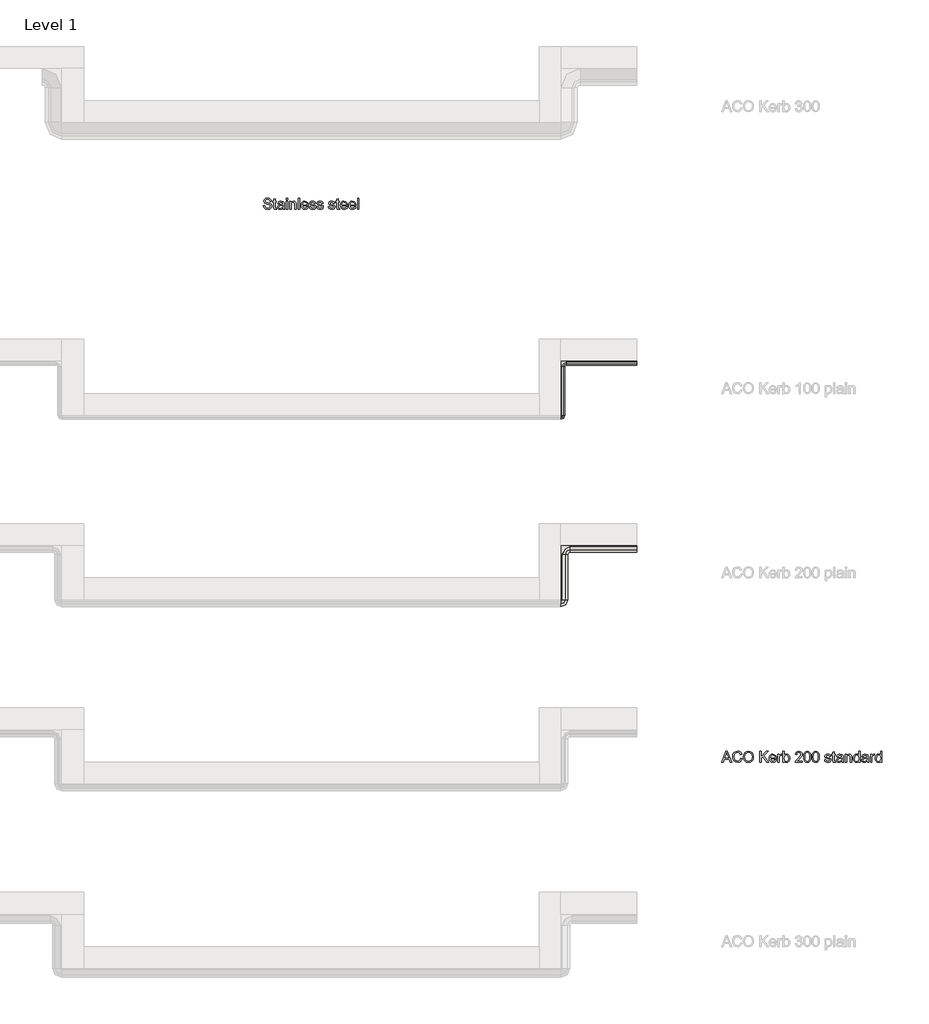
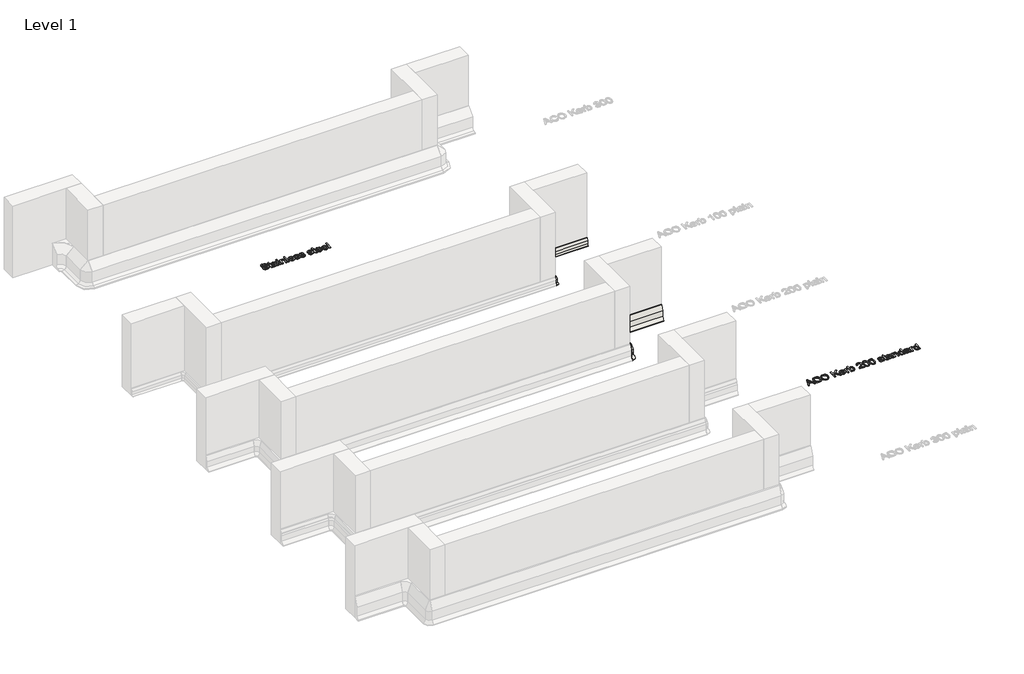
# One storey, part 3 of 4: 6 walls, 2 proxies.
"""IFC4 building model written with IfcOpenShell, lengths in millimetres."""

from ifc_helpers import new_model, si_unit, origin, origin_with_axes, place, context, project, spatial, polyline, outline, extrude, transform, mapped, element, save
from components import wall_ed1be866, wall_3654c08e, wall_77bbd41e, wall_ce8773a7, wall_ae31afe3, wall_f734193e

model = new_model("IFC4")

# Units and contexts
model_context = context("Model", 3, world=origin())
ifc_project = project(units=[si_unit("LENGTHUNIT", "METRE", prefix="MILLI")], contexts=[model_context])

# Site, building, storey
site = spatial("IfcSite", under=ifc_project)
building = spatial("IfcBuilding", under=site)
storey = spatial("IfcBuildingStorey", under=building, Name="Level 1", Elevation=0.0)

# Proxies
placement = place(None, origin())
element("IfcBuildingElementProxy", 1, Name="100mm ACO", ObjectType="100mm ACO", at=placement, inside=storey, context=model_context, shape_type="SweptSolid", body=[
    extrude(outline(polyline([(619.4444444, -4129.6296296), (617.4334491, -4120.7356771), (612.962963, -4114.3663194), (596.6435185, -4109.2592593), (581.0185185, -4113.2378472), (576.5046296, -4118.1242766), (575.0, -4124.8263889), (579.4704861, -4134.8813657), (597.65625, -4141.1747685), (617.4913194, -4146.6579861), (630.6423611, -4155.5844907), (634.7439236, -4162.6663773), (636.1111111, -4171.8171296), (633.6046007, -4183.6552373), (626.0850694, -4193.3015046), (614.5363137, -4199.714265), (599.9421296, -4201.8518519), (581.958912, -4199.4791667), (569.1550926, -4192.3611111), (561.3425926, -4181.4670139), (558.3333333, -4167.7662037), (571.2962963, -4166.6666667), (573.9257812, -4177.5426794), (580.1359954, -4184.9971065), (588.9720775, -4189.3048322), (599.4791667, -4190.7407407), (616.6087963, -4186.009838), (621.5133102, -4180.4361979), (623.1481481, -4173.1770833), (621.4590567, -4165.8492477), (616.3917824, -4160.8217593), (593.1134259, -4153.3709491), (578.9026331, -4149.0306713), (569.3142361, -4143.1568287), (563.8563368, -4135.5287905), (562.037037, -4125.9259259), (564.3192998, -4114.9305556), (571.166088, -4106.0185185), (581.9480613, -4100.1157407), (596.0358796, -4098.1481481), (610.5975116, -4100.1302083), (621.9907407, -4106.0763889), (629.4994213, -4115.6684028), (632.4074074, -4128.587963), (619.4444444, -4129.6296296)])), origin_with_axes(), (0.0, 0.0, 1.0), 10.0),
    extrude(outline(polyline([(680.5555556, -4201.0127315), (671.4699074, -4201.8518519), (659.8813657, -4198.9728009), (655.4398148, -4191.6666667), (654.6296296, -4179.3402778), (654.6296296, -4137.037037), (645.3703704, -4137.037037), (645.3703704, -4127.7777778), (654.6296296, -4127.7777778), (654.6296296, -4109.4328704), (667.5925926, -4101.8518519), (667.5925926, -4127.7777778), (678.7037037, -4127.7777778), (678.7037037, -4137.037037), (667.5925926, -4137.037037), (667.5925926, -4181.9444444), (668.6342593, -4190.162037), (673.9293981, -4192.5925926), (678.9641204, -4192.5925926), (680.5555556, -4201.0127315)])), origin_with_axes(), (0.0, 0.0, 1.0), 10.0),
    extrude(outline(polyline([(754.6296296, -4200.0), (741.6666667, -4200.0), (737.962963, -4191.2615741), (725.4701968, -4199.2042824), (712.0081019, -4201.8518519), (702.0218461, -4200.4050926), (694.4010417, -4196.0648148), (689.5724826, -4189.3518519), (687.962963, -4180.787037), (689.5399306, -4172.479022), (694.2708333, -4165.7841435), (702.9007523, -4160.8904803), (716.1747685, -4157.9861111), (727.5173611, -4156.25), (737.962963, -4153.7037037), (737.6302083, -4145.6741898), (735.6915509, -4140.7986111), (730.5266204, -4136.7332176), (720.9490741, -4135.1851852), (708.8686343, -4138.3246528), (702.7777778, -4150.0), (689.8148148, -4148.4085648), (693.3702257, -4138.599537), (700.0434028, -4131.568287), (709.8271123, -4127.3365162), (722.7141204, -4125.9259259), (741.9704861, -4129.7887731), (749.5225694, -4139.1059028), (750.9259259, -4153.1539352), (750.9259259, -4169.6759259), (751.4756944, -4189.9305556), (754.6296296, -4200.0)]), holes=[polyline([(737.962963, -4167.5925926), (737.962963, -4162.962963), (714.6846065, -4168.287037), (704.3655961, -4172.3451968), (700.9259259, -4180.5844907), (704.6296296, -4189.2071759), (715.306713, -4192.5925926), (731.1197917, -4186.9212963), (736.2521701, -4179.2534722), (737.962963, -4167.5925926)])]), origin_with_axes(), (0.0, 0.0, 1.0), 10.0),
    extrude(outline(polyline([(782.4074074, -4112.962963), (769.4444444, -4112.962963), (769.4444444, -4100.0), (782.4074074, -4100.0), (782.4074074, -4112.962963)])), origin_with_axes(), (0.0, 0.0, 1.0), 10.0),
    extrude(outline(polyline([(782.4074074, -4200.0), (769.4444444, -4200.0), (769.4444444, -4127.7777778), (782.4074074, -4127.7777778), (782.4074074, -4200.0)])), origin_with_axes(), (0.0, 0.0, 1.0), 10.0),
    extrude(outline(polyline([(860.1851852, -4200.0), (847.2222222, -4200.0), (847.2222222, -4155.0347222), (843.359375, -4139.4386574), (832.6099537, -4135.1851852), (822.583912, -4137.9050926), (815.8709491, -4145.5729167), (813.8888889, -4159.5775463), (813.8888889, -4200.0), (800.9259259, -4200.0), (800.9259259, -4127.7777778), (812.037037, -4127.7777778), (812.037037, -4137.818287), (821.9328704, -4128.8917824), (835.1851852, -4125.9259259), (846.556713, -4127.9803241), (855.3530093, -4134.1290509), (859.3605324, -4142.8674769), (860.1851852, -4155.4108796), (860.1851852, -4200.0)])), origin_with_axes(), (0.0, 0.0, 1.0), 10.0),
    extrude(outline(polyline([(891.6666667, -4200.0), (878.7037037, -4200.0), (878.7037037, -4100.0), (891.6666667, -4100.0), (891.6666667, -4200.0)])), origin_with_axes(), (0.0, 0.0, 1.0), 10.0),
    extrude(outline(polyline([(973.1481481, -4166.6666667), (919.4444444, -4166.6666667), (921.5169271, -4177.7922454), (926.2297454, -4185.9375), (933.0114294, -4190.9288194), (941.2905093, -4192.5925926), (952.9658565, -4188.9033565), (960.1851852, -4177.7777778), (973.1481481, -4179.2824074), (968.7717014, -4188.9033565), (961.8344907, -4196.0069444), (952.5896991, -4200.390625), (941.2905093, -4201.8518519), (926.703559, -4199.3453414), (915.697338, -4191.8258102), (908.7854456, -4179.9660012), (906.4814815, -4164.4386574), (908.7022569, -4148.900463), (915.3645833, -4136.6030093), (926.0633681, -4128.5951968), (940.3935185, -4125.9259259), (955.6134259, -4129.3836806), (968.041088, -4141.1603009), (971.8713831, -4151.6963252), (973.1481481, -4166.6666667)]), holes=[polyline([(960.1851852, -4157.4074074), (958.1018519, -4147.2511574), (953.3564815, -4140.3935185), (940.0752315, -4135.1851852), (932.2193287, -4136.7332176), (925.8969907, -4141.3773148), (919.4444444, -4157.4074074), (960.1851852, -4157.4074074)])]), origin_with_axes(), (0.0, 0.0, 1.0), 10.0),
    extrude(outline(polyline([(1028.7037037, -4148.1481481), (1023.9149306, -4138.4259259), (1012.8472222, -4135.1851852), (1001.5335648, -4137.962963), (997.2222222, -4146.0358796), (1000.072338, -4153.1828704), (1013.5127315, -4157.0601852), (1031.2355324, -4161.2268519), (1040.2777778, -4167.5491898), (1043.5185185, -4178.8773148), (1041.5075231, -4187.8074363), (1035.474537, -4195.2112269), (1026.0778356, -4200.1916956), (1013.9756944, -4201.8518519), (1001.5010127, -4200.4557292), (992.0862269, -4196.2673611), (985.724103, -4189.2939815), (982.4074074, -4179.5428241), (995.3703704, -4177.7777778), (1000.9693287, -4188.9033565), (1013.9756944, -4192.5925926), (1026.2731481, -4188.7586806), (1030.5555556, -4179.4270833), (1028.6313657, -4173.4519676), (1023.828125, -4170.0810185), (1010.2430556, -4167.1875), (989.3084491, -4159.375), (984.2592593, -4146.7881944), (986.1291956, -4138.5018808), (991.7390046, -4131.8142361), (1000.5099826, -4127.3980035), (1011.8634259, -4125.9259259), (1023.7955729, -4127.2135417), (1032.740162, -4131.0763889), (1038.6971933, -4137.5072338), (1041.6666667, -4146.4988426), (1028.7037037, -4148.1481481)])), origin_with_axes(), (0.0, 0.0, 1.0), 10.0),
    extrude(outline(polyline([(1097.2222222, -4148.1481481), (1092.4334491, -4138.4259259), (1081.3657407, -4135.1851852), (1070.0520833, -4137.962963), (1065.7407407, -4146.0358796), (1068.5908565, -4153.1828704), (1082.03125, -4157.0601852), (1099.7540509, -4161.2268519), (1108.7962963, -4167.5491898), (1112.037037, -4178.8773148), (1110.0260417, -4187.8074363), (1103.9930556, -4195.2112269), (1094.5963542, -4200.1916956), (1082.494213, -4201.8518519), (1070.0195312, -4200.4557292), (1060.6047454, -4196.2673611), (1054.2426215, -4189.2939815), (1050.9259259, -4179.5428241), (1063.8888889, -4177.7777778), (1069.4878472, -4188.9033565), (1082.494213, -4192.5925926), (1094.7916667, -4188.7586806), (1099.0740741, -4179.4270833), (1097.1498843, -4173.4519676), (1092.3466435, -4170.0810185), (1078.7615741, -4167.1875), (1057.8269676, -4159.375), (1052.7777778, -4146.7881944), (1054.6477141, -4138.5018808), (1060.2575231, -4131.8142361), (1069.0285012, -4127.3980035), (1080.3819444, -4125.9259259), (1092.3140914, -4127.2135417), (1101.2586806, -4131.0763889), (1107.2157118, -4137.5072338), (1110.1851852, -4146.4988426), (1097.2222222, -4148.1481481)])), origin_with_axes(), (0.0, 0.0, 1.0), 10.0),
    extrude(outline(polyline([(1204.6296296, -4148.1481481), (1199.8408565, -4138.4259259), (1188.7731481, -4135.1851852), (1177.4594907, -4137.962963), (1173.1481481, -4146.0358796), (1175.9982639, -4153.1828704), (1189.4386574, -4157.0601852), (1207.1614583, -4161.2268519), (1216.2037037, -4167.5491898), (1219.4444444, -4178.8773148), (1217.4334491, -4187.8074363), (1211.400463, -4195.2112269), (1202.0037616, -4200.1916956), (1189.9016204, -4201.8518519), (1177.4269387, -4200.4557292), (1168.0121528, -4196.2673611), (1161.6500289, -4189.2939815), (1158.3333333, -4179.5428241), (1171.2962963, -4177.7777778), (1176.8952546, -4188.9033565), (1189.9016204, -4192.5925926), (1202.1990741, -4188.7586806), (1206.4814815, -4179.4270833), (1204.5572917, -4173.4519676), (1199.7540509, -4170.0810185), (1186.1689815, -4167.1875), (1165.234375, -4159.375), (1160.1851852, -4146.7881944), (1162.0551215, -4138.5018808), (1167.6649306, -4131.8142361), (1176.4359086, -4127.3980035), (1187.7893519, -4125.9259259), (1199.7214988, -4127.2135417), (1208.666088, -4131.0763889), (1214.6231192, -4137.5072338), (1217.5925926, -4146.4988426), (1204.6296296, -4148.1481481)])), origin_with_axes(), (0.0, 0.0, 1.0), 10.0),
    extrude(outline(polyline([(1260.1851852, -4201.0127315), (1251.099537, -4201.8518519), (1239.5109954, -4198.9728009), (1235.0694444, -4191.6666667), (1234.2592593, -4179.3402778), (1234.2592593, -4137.037037), (1225.0, -4137.037037), (1225.0, -4127.7777778), (1234.2592593, -4127.7777778), (1234.2592593, -4109.4328704), (1247.2222222, -4101.8518519), (1247.2222222, -4127.7777778), (1258.3333333, -4127.7777778), (1258.3333333, -4137.037037), (1247.2222222, -4137.037037), (1247.2222222, -4181.9444444), (1248.2638889, -4190.162037), (1253.5590278, -4192.5925926), (1258.59375, -4192.5925926), (1260.1851852, -4201.0127315)])), origin_with_axes(), (0.0, 0.0, 1.0), 10.0),
    extrude(outline(polyline([(1334.2592593, -4166.6666667), (1280.5555556, -4166.6666667), (1282.6280382, -4177.7922454), (1287.3408565, -4185.9375), (1294.1225405, -4190.9288194), (1302.4016204, -4192.5925926), (1314.0769676, -4188.9033565), (1321.2962963, -4177.7777778), (1334.2592593, -4179.2824074), (1329.8828125, -4188.9033565), (1322.9456019, -4196.0069444), (1313.7008102, -4200.390625), (1302.4016204, -4201.8518519), (1287.8146701, -4199.3453414), (1276.8084491, -4191.8258102), (1269.8965567, -4179.9660012), (1267.5925926, -4164.4386574), (1269.8133681, -4148.900463), (1276.4756944, -4136.6030093), (1287.1744792, -4128.5951968), (1301.5046296, -4125.9259259), (1316.724537, -4129.3836806), (1329.1521991, -4141.1603009), (1332.9824942, -4151.6963252), (1334.2592593, -4166.6666667)]), holes=[polyline([(1321.2962963, -4157.4074074), (1319.212963, -4147.2511574), (1314.4675926, -4140.3935185), (1301.1863426, -4135.1851852), (1293.3304398, -4136.7332176), (1287.0081019, -4141.3773148), (1280.5555556, -4157.4074074), (1321.2962963, -4157.4074074)])]), origin_with_axes(), (0.0, 0.0, 1.0), 10.0),
    extrude(outline(polyline([(1412.037037, -4166.6666667), (1358.3333333, -4166.6666667), (1360.405816, -4177.7922454), (1365.1186343, -4185.9375), (1371.9003183, -4190.9288194), (1380.1793981, -4192.5925926), (1391.8547454, -4188.9033565), (1399.0740741, -4177.7777778), (1412.037037, -4179.2824074), (1407.6605903, -4188.9033565), (1400.7233796, -4196.0069444), (1391.478588, -4200.390625), (1380.1793981, -4201.8518519), (1365.5924479, -4199.3453414), (1354.5862269, -4191.8258102), (1347.6743345, -4179.9660012), (1345.3703704, -4164.4386574), (1347.5911458, -4148.900463), (1354.2534722, -4136.6030093), (1364.9522569, -4128.5951968), (1379.2824074, -4125.9259259), (1394.5023148, -4129.3836806), (1406.9299769, -4141.1603009), (1410.760272, -4151.6963252), (1412.037037, -4166.6666667)]), holes=[polyline([(1399.0740741, -4157.4074074), (1396.9907407, -4147.2511574), (1392.2453704, -4140.3935185), (1378.9641204, -4135.1851852), (1371.1082176, -4136.7332176), (1364.7858796, -4141.3773148), (1358.3333333, -4157.4074074), (1399.0740741, -4157.4074074)])]), origin_with_axes(), (0.0, 0.0, 1.0), 10.0),
    extrude(outline(polyline([(1439.8148148, -4200.0), (1426.8518519, -4200.0), (1426.8518519, -4100.0), (1439.8148148, -4100.0), (1439.8148148, -4200.0)])), origin_with_axes(), (0.0, 0.0, 1.0), 10.0),
])
element("IfcBuildingElementProxy", 2, Name="100mm ACO", ObjectType="100mm ACO", at=placement, inside=storey, context=model_context, shape_type="SweptSolid", body=[
    extrude(outline(polyline([(4878.14858, -9300.0), (4864.3464967, -9300.0), (4852.36733, -9270.3703704), (4809.9194133, -9270.3703704), (4798.4032096, -9300.0), (4784.6300615, -9300.0), (4823.4900152, -9200.0), (4837.6682559, -9200.0), (4878.14858, -9300.0)]), holes=[polyline([(4847.8534411, -9259.2592593), (4833.4292513, -9222.5983796), (4830.4633948, -9210.9375), (4825.80483, -9229.5138889), (4814.2596911, -9259.2592593), (4847.8534411, -9259.2592593)])]), origin_with_axes(), (0.0, 0.0, 1.0), 10.0),
    extrude(outline(polyline([(4972.1300615, -9268.1712963), (4966.216433, -9282.9969618), (4957.0982328, -9293.5040509), (4945.3107617, -9299.7649016), (4931.3893208, -9301.8518519), (4910.4836495, -9297.9962384), (4896.1462652, -9286.4293981), (4887.8563346, -9269.4372106), (4885.0930245, -9249.3055556), (4888.3373821, -9227.9188368), (4898.070455, -9211.7332176), (4912.9033543, -9201.5444155), (4931.4471911, -9198.1481481), (4944.7609932, -9199.9602141), (4955.9986958, -9205.396412), (4964.6684006, -9214.3265336), (4970.2782096, -9226.6203704), (4957.3152467, -9229.6296296), (4947.4628161, -9214.3663194), (4930.955293, -9209.2592593), (4916.7336495, -9211.968316), (4906.4182559, -9220.0954861), (4900.1465545, -9232.7799479), (4898.0559874, -9249.1608796), (4900.2695291, -9267.5238715), (4906.9101541, -9280.4832176), (4917.1098069, -9288.17636), (4930.0004319, -9290.7407407), (4940.5690083, -9289.1239873), (4948.9529782, -9284.2737269), (4955.1523416, -9276.1754919), (4959.1670985, -9264.8148148), (4972.1300615, -9268.1712963)])), origin_with_axes(), (0.0, 0.0, 1.0), 10.0),
    extrude(outline(polyline([(5031.4761263, -9198.1481481), (5049.9657096, -9201.7216435), (5064.7515893, -9212.4421296), (5074.4521101, -9229.0147569), (5077.685617, -9250.1446759), (5074.4340256, -9271.1841725), (5064.6792513, -9287.6591435), (5049.8752872, -9298.3036748), (5031.4761263, -9301.8518519), (5012.6031518, -9298.1734664), (4997.8245059, -9287.1383102), (4988.2758948, -9270.808015), (4985.0930245, -9251.244213), (4988.3192976, -9229.1630498), (4997.998117, -9212.3408565), (5012.8201657, -9201.6963252), (5031.4761263, -9198.1481481)]), holes=[polyline([(5031.3603856, -9290.7407407), (5044.8007791, -9288.0570023), (5055.4344596, -9280.005787), (5062.3716703, -9267.1730324), (5064.7226541, -9250.1446759), (5062.3680534, -9232.7365451), (5055.3042513, -9219.8640046), (5044.6741877, -9211.9104456), (5031.6208022, -9209.2592593), (5018.2744481, -9211.8561921), (5007.517793, -9219.6469907), (5000.4214388, -9232.8052662), (4998.0559874, -9251.5046296), (5000.3708022, -9267.3864294), (5007.3152467, -9279.9045139), (5017.956161, -9288.031684), (5031.3603856, -9290.7407407)])]), origin_with_axes(), (0.0, 0.0, 1.0), 10.0),
    extrude(outline(polyline([(5217.0374689, -9300.0), (5201.4992745, -9300.0), (5164.5779782, -9248.8136574), (5148.0559874, -9264.8148148), (5148.0559874, -9300.0), (5135.0930245, -9300.0), (5135.0930245, -9200.0), (5148.0559874, -9200.0), (5148.0559874, -9247.8009259), (5197.4194133, -9200.0), (5215.0120059, -9200.0), (5173.7504319, -9239.9305556), (5217.0374689, -9300.0)])), origin_with_axes(), (0.0, 0.0, 1.0), 10.0),
    extrude(outline(polyline([(5288.7967282, -9266.6666667), (5235.0930245, -9266.6666667), (5237.1655071, -9277.7922454), (5241.8783254, -9285.9375), (5248.6600094, -9290.9288194), (5256.9390893, -9292.5925926), (5268.6144365, -9288.9033565), (5275.8337652, -9277.7777778), (5288.7967282, -9279.2824074), (5284.4202814, -9288.9033565), (5277.4830708, -9296.0069444), (5268.2382791, -9300.390625), (5256.9390893, -9301.8518519), (5242.352139, -9299.3453414), (5231.345918, -9291.8258102), (5224.4340256, -9279.9660012), (5222.1300615, -9264.4386574), (5224.350837, -9248.900463), (5231.0131633, -9236.6030093), (5241.7119481, -9228.5951968), (5256.0420985, -9225.9259259), (5271.2620059, -9229.3836806), (5283.689668, -9241.1603009), (5287.5199631, -9251.6963252), (5288.7967282, -9266.6666667)]), holes=[polyline([(5275.8337652, -9257.4074074), (5273.7504319, -9247.2511574), (5269.0050615, -9240.3935185), (5255.7238115, -9235.1851852), (5247.8679087, -9236.7332176), (5241.5455708, -9241.3773148), (5235.0930245, -9257.4074074), (5275.8337652, -9257.4074074)])]), origin_with_axes(), (0.0, 0.0, 1.0), 10.0),
    extrude(outline(polyline([(5342.5004319, -9228.7615741), (5338.4495059, -9237.037037), (5329.9425615, -9235.1851852), (5324.1482907, -9236.8127894), (5319.9599226, -9241.6956019), (5316.5745059, -9259.9247685), (5316.5745059, -9300.0), (5303.611543, -9300.0), (5303.611543, -9227.7777778), (5314.7226541, -9227.7777778), (5314.7226541, -9238.4837963), (5321.6526309, -9229.0653935), (5330.0872374, -9225.9259259), (5342.5004319, -9228.7615741)])), origin_with_axes(), (0.0, 0.0, 1.0), 10.0),
    extrude(outline(polyline([(5363.0444133, -9234.9247685), (5371.4066819, -9228.1756366), (5382.4888578, -9225.9259259), (5394.9129029, -9228.4722222), (5404.5808717, -9236.1111111), (5410.7983196, -9247.8587963), (5412.8708022, -9262.7314815), (5410.5921564, -9279.4668692), (5403.7562189, -9291.7679398), (5393.8676194, -9299.3308738), (5382.4309874, -9301.8518519), (5371.4139157, -9299.3778935), (5363.1312189, -9291.9560185), (5362.8708022, -9300.0), (5349.9078393, -9300.0), (5349.9078393, -9200.0), (5362.8708022, -9200.0), (5363.0444133, -9234.9247685)]), holes=[polyline([(5381.2157096, -9292.5925926), (5388.6339677, -9290.7009549), (5394.627168, -9285.0260417), (5398.5876714, -9275.9295428), (5399.9078393, -9263.7731481), (5395.0467282, -9242.896412), (5389.2596911, -9237.1129919), (5381.6208022, -9235.1851852), (5373.9963809, -9237.1744792), (5368.0212652, -9243.1423611), (5362.8708022, -9263.28125), (5365.0120059, -9280.2372685), (5371.4645522, -9288.9322917), (5381.2157096, -9292.5925926)])]), origin_with_axes(), (0.0, 0.0, 1.0), 10.0),
    extrude(outline(polyline([(5527.685617, -9300.0), (5461.0189504, -9300.0), (5466.9795985, -9284.4039352), (5488.9992745, -9262.7893519), (5506.7654782, -9245.4571759), (5512.7333601, -9236.4293981), (5514.7226541, -9227.34375), (5509.2973069, -9214.380787), (5495.5964967, -9209.2592593), (5481.5629319, -9214.3663194), (5477.294992, -9220.7356771), (5475.8337652, -9229.6296296), (5462.8708022, -9228.2407407), (5466.0102698, -9216.1385995), (5473.0559874, -9207.2627315), (5483.2701078, -9201.8156829), (5495.9147837, -9200.0), (5509.2719886, -9202.0869502), (5519.3088809, -9208.3478009), (5525.591433, -9217.5600405), (5527.685617, -9228.5011574), (5525.9350383, -9238.4042245), (5520.6833022, -9248.4375), (5493.2527467, -9275.9548611), (5477.685617, -9290.7407407), (5527.685617, -9290.7407407), (5527.685617, -9300.0)])), origin_with_axes(), (0.0, 0.0, 1.0), 10.0),
    extrude(outline(polyline([(5573.9529782, -9200.0), (5588.5489706, -9203.1864873), (5598.9746795, -9212.7459491), (5605.2301049, -9228.6783854), (5607.3152467, -9250.9837963), (5605.1595754, -9273.4555845), (5598.6925615, -9289.3084491), (5588.1963231, -9298.7160012), (5573.9529782, -9301.8518519), (5559.382304, -9298.6725984), (5548.9746795, -9289.134838), (5542.7301049, -9273.2385706), (5540.64858, -9250.9837963), (5542.8042513, -9228.515625), (5549.2712652, -9212.6157407), (5559.753036, -9203.1539352), (5573.9529782, -9200.0)]), holes=[polyline([(5573.9819133, -9292.5925926), (5582.8216124, -9290.1584201), (5589.2018208, -9282.8559028), (5593.064668, -9270.0195313), (5594.3522837, -9250.9837963), (5592.0953393, -9226.7650463), (5585.2811032, -9213.599537), (5573.8372374, -9209.2592593), (5565.0156228, -9211.7368345), (5558.689668, -9219.1695602), (5554.8810742, -9232.0782697), (5553.611543, -9250.9837963), (5555.9118902, -9275.0434028), (5562.7261263, -9288.2523148), (5573.9819133, -9292.5925926)])]), origin_with_axes(), (0.0, 0.0, 1.0), 10.0),
    extrude(outline(polyline([(5651.7307559, -9200.0), (5666.3267484, -9203.1864873), (5676.7524573, -9212.7459491), (5683.0078827, -9228.6783854), (5685.0930245, -9250.9837963), (5682.9373532, -9273.4555845), (5676.4703393, -9289.3084491), (5665.9741008, -9298.7160012), (5651.7307559, -9301.8518519), (5637.1600817, -9298.6725984), (5626.7524573, -9289.134838), (5620.5078827, -9273.2385706), (5618.4263578, -9250.9837963), (5620.5820291, -9228.515625), (5627.049043, -9212.6157407), (5637.5308138, -9203.1539352), (5651.7307559, -9200.0)]), holes=[polyline([(5651.7596911, -9292.5925926), (5660.5993902, -9290.1584201), (5666.9795985, -9282.8559028), (5670.8424458, -9270.0195313), (5672.1300615, -9250.9837963), (5669.873117, -9226.7650463), (5663.0588809, -9213.599537), (5651.6150152, -9209.2592593), (5642.7934006, -9211.7368345), (5636.4674458, -9219.1695602), (5632.658852, -9232.0782697), (5631.3893208, -9250.9837963), (5633.689668, -9275.0434028), (5640.5039041, -9288.2523148), (5651.7596911, -9292.5925926)])]), origin_with_axes(), (0.0, 0.0, 1.0), 10.0),
    extrude(outline(polyline([(5779.5374689, -9248.1481481), (5774.7486958, -9238.4259259), (5763.6809874, -9235.1851852), (5752.36733, -9237.962963), (5748.0559874, -9246.0358796), (5750.9061032, -9253.1828704), (5764.3464967, -9257.0601852), (5782.0692976, -9261.2268519), (5791.111543, -9267.5491898), (5794.3522837, -9278.8773148), (5792.3412883, -9287.8074363), (5786.3083022, -9295.2112269), (5776.9116008, -9300.1916956), (5764.8094596, -9301.8518519), (5752.3347779, -9300.4557292), (5742.919992, -9296.2673611), (5736.5578682, -9289.2939815), (5733.2411726, -9279.5428241), (5746.2041356, -9277.7777778), (5751.8030939, -9288.9033565), (5764.8094596, -9292.5925926), (5777.1069133, -9288.7586806), (5781.3893208, -9279.4270833), (5779.4651309, -9273.4519676), (5774.6618902, -9270.0810185), (5761.0768208, -9267.1875), (5740.1422143, -9259.375), (5735.0930245, -9246.7881944), (5736.9629608, -9238.5018808), (5742.5727698, -9231.8142361), (5751.3437478, -9227.3980035), (5762.6971911, -9225.9259259), (5774.6293381, -9227.2135417), (5783.5739272, -9231.0763889), (5789.5309585, -9237.5072338), (5792.5004319, -9246.4988426), (5779.5374689, -9248.1481481)])), origin_with_axes(), (0.0, 0.0, 1.0), 10.0),
    extrude(outline(polyline([(5835.0930245, -9301.0127315), (5826.0073763, -9301.8518519), (5814.4188346, -9298.9728009), (5809.9772837, -9291.6666667), (5809.1670985, -9279.3402778), (5809.1670985, -9237.037037), (5799.9078393, -9237.037037), (5799.9078393, -9227.7777778), (5809.1670985, -9227.7777778), (5809.1670985, -9209.4328704), (5822.1300615, -9201.8518519), (5822.1300615, -9227.7777778), (5833.2411726, -9227.7777778), (5833.2411726, -9237.037037), (5822.1300615, -9237.037037), (5822.1300615, -9281.9444444), (5823.1717282, -9290.162037), (5828.466867, -9292.5925926), (5833.5015893, -9292.5925926), (5835.0930245, -9301.0127315)])), origin_with_axes(), (0.0, 0.0, 1.0), 10.0),
    extrude(outline(polyline([(5909.1670985, -9300.0), (5896.2041356, -9300.0), (5892.5004319, -9291.2615741), (5880.0076657, -9299.2042824), (5866.5455708, -9301.8518519), (5856.559315, -9300.4050926), (5848.9385106, -9296.0648148), (5844.1099515, -9289.3518519), (5842.5004319, -9280.787037), (5844.0773995, -9272.479022), (5848.8083022, -9265.7841435), (5857.4382212, -9260.8904803), (5870.7122374, -9257.9861111), (5882.05483, -9256.25), (5892.5004319, -9253.7037037), (5892.1676772, -9245.6741898), (5890.2290198, -9240.7986111), (5885.0640893, -9236.7332176), (5875.486543, -9235.1851852), (5863.4061032, -9238.3246528), (5857.3152467, -9250.0), (5844.3522837, -9248.4085648), (5847.9076946, -9238.599537), (5854.5808717, -9231.568287), (5864.3645812, -9227.3365162), (5877.2515893, -9225.9259259), (5896.507955, -9229.7887731), (5904.0600383, -9239.1059028), (5905.4633948, -9253.1539352), (5905.4633948, -9269.6759259), (5906.0131633, -9289.9305556), (5909.1670985, -9300.0)]), holes=[polyline([(5892.5004319, -9267.5925926), (5892.5004319, -9262.962963), (5869.2220754, -9268.287037), (5858.903065, -9272.3451968), (5855.4633948, -9280.5844907), (5859.1670985, -9289.2071759), (5869.8441819, -9292.5925926), (5885.6572606, -9286.9212963), (5890.789639, -9279.2534722), (5892.5004319, -9267.5925926)])]), origin_with_axes(), (0.0, 0.0, 1.0), 10.0),
    extrude(outline(polyline([(5983.2411726, -9300.0), (5970.2782096, -9300.0), (5970.2782096, -9255.0347222), (5966.4153624, -9239.4386574), (5955.6659411, -9235.1851852), (5945.6398995, -9237.9050926), (5938.9269365, -9245.5729167), (5936.9448763, -9259.5775463), (5936.9448763, -9300.0), (5923.9819133, -9300.0), (5923.9819133, -9227.7777778), (5935.0930245, -9227.7777778), (5935.0930245, -9237.818287), (5944.9888578, -9228.8917824), (5958.2411726, -9225.9259259), (5969.6127004, -9227.9803241), (5978.4089967, -9234.1290509), (5982.4165198, -9242.8674769), (5983.2411726, -9255.4108796), (5983.2411726, -9300.0)])), origin_with_axes(), (0.0, 0.0, 1.0), 10.0),
    extrude(outline(polyline([(6061.0189504, -9300.0), (6048.0559874, -9300.0), (6048.0559874, -9291.8402778), (6039.7009527, -9299.3489583), (6028.3221911, -9301.8518519), (6016.4551483, -9299.2115162), (6006.7220754, -9291.2905093), (6000.2225094, -9279.1594329), (5998.0559874, -9263.8888889), (6000.132087, -9248.1481481), (6006.3603856, -9236.1111111), (6015.9958022, -9228.4722222), (6028.2932559, -9225.9259259), (6039.5779782, -9228.2118056), (6047.7955708, -9235.0694444), (6048.0559874, -9200.0), (6061.0189504, -9200.0), (6061.0189504, -9300.0)]), holes=[polyline([(6029.8268208, -9292.5925926), (6036.8797721, -9290.8854167), (6042.7608485, -9285.7638889), (6046.7322027, -9277.1701389), (6048.0559874, -9265.0462963), (6043.2093439, -9243.287037), (6037.310183, -9237.2106481), (6029.3059874, -9235.1851852), (6021.3596622, -9237.1672454), (6015.6341124, -9243.1134259), (6011.0189504, -9263.9178241), (6013.5073763, -9279.6730324), (6020.4518208, -9289.3518519), (6029.8268208, -9292.5925926)])]), origin_with_axes(), (0.0, 0.0, 1.0), 10.0),
    extrude(outline(polyline([(6142.5004319, -9300.0), (6129.5374689, -9300.0), (6125.8337652, -9291.2615741), (6113.340999, -9299.2042824), (6099.8789041, -9301.8518519), (6089.8926483, -9300.4050926), (6082.2718439, -9296.0648148), (6077.4432849, -9289.3518519), (6075.8337652, -9280.787037), (6077.4107328, -9272.479022), (6082.1416356, -9265.7841435), (6090.7715545, -9260.8904803), (6104.0455708, -9257.9861111), (6115.3881633, -9256.25), (6125.8337652, -9253.7037037), (6125.5010106, -9245.6741898), (6123.5623532, -9240.7986111), (6118.3974226, -9236.7332176), (6108.8198763, -9235.1851852), (6096.7394365, -9238.3246528), (6090.64858, -9250.0), (6077.685617, -9248.4085648), (6081.2410279, -9238.599537), (6087.914205, -9231.568287), (6097.6979145, -9227.3365162), (6110.5849226, -9225.9259259), (6129.8412883, -9229.7887731), (6137.3933717, -9239.1059028), (6138.7967282, -9253.1539352), (6138.7967282, -9269.6759259), (6139.3464967, -9289.9305556), (6142.5004319, -9300.0)]), holes=[polyline([(6125.8337652, -9267.5925926), (6125.8337652, -9262.962963), (6102.5554087, -9268.287037), (6092.2363983, -9272.3451968), (6088.7967282, -9280.5844907), (6092.5004319, -9289.2071759), (6103.1775152, -9292.5925926), (6118.9905939, -9286.9212963), (6124.1229724, -9279.2534722), (6125.8337652, -9267.5925926)])]), origin_with_axes(), (0.0, 0.0, 1.0), 10.0),
    extrude(outline(polyline([(6196.2041356, -9228.7615741), (6192.1532096, -9237.037037), (6183.6462652, -9235.1851852), (6177.8519944, -9236.8127894), (6173.6636263, -9241.6956019), (6170.2782096, -9259.9247685), (6170.2782096, -9300.0), (6157.3152467, -9300.0), (6157.3152467, -9227.7777778), (6168.4263578, -9227.7777778), (6168.4263578, -9238.4837963), (6175.3563346, -9229.0653935), (6183.7909411, -9225.9259259), (6196.2041356, -9228.7615741)])), origin_with_axes(), (0.0, 0.0, 1.0), 10.0),
    extrude(outline(polyline([(6262.8708022, -9300.0), (6249.9078393, -9300.0), (6249.9078393, -9291.8402778), (6241.5528045, -9299.3489583), (6230.174043, -9301.8518519), (6218.3070002, -9299.2115162), (6208.5739272, -9291.2905093), (6202.0743613, -9279.1594329), (6199.9078393, -9263.8888889), (6201.9839388, -9248.1481481), (6208.2122374, -9236.1111111), (6217.8476541, -9228.4722222), (6230.1451078, -9225.9259259), (6241.42983, -9228.2118056), (6249.6474226, -9235.0694444), (6249.9078393, -9200.0), (6262.8708022, -9200.0), (6262.8708022, -9300.0)]), holes=[polyline([(6231.6786726, -9292.5925926), (6238.731624, -9290.8854167), (6244.6127004, -9285.7638889), (6248.5840545, -9277.1701389), (6249.9078393, -9265.0462963), (6245.0611958, -9243.287037), (6239.1620349, -9237.2106481), (6231.1578393, -9235.1851852), (6223.211514, -9237.1672454), (6217.4859643, -9243.1134259), (6212.8708022, -9263.9178241), (6215.3592282, -9279.6730324), (6222.3036726, -9289.3518519), (6231.6786726, -9292.5925926)])]), origin_with_axes(), (0.0, 0.0, 1.0), 10.0),
])

# Walls
wall_shape = wall_ed1be866(model_context)
element("IfcWall", 3, ObjectType="GM_PC_UN_ACO kerb PB inside corner_ACO : PB H200 plain", at=placement, inside=storey, context=model_context, shape_type="MappedRepresentation", body=[
    mapped(wall_shape, transform((3300.0, -7300.0, 0.0), x_axis=(0.0, 1.0, 0.0), y_axis=(-1.0, 0.0, 0.0), z_axis=(0.0, 0.0, 1.0))),
])
wall_2_shape = wall_3654c08e(model_context)
element("IfcWall", 4, ObjectType="GM_PC_UN_ACO kerb PB outside corner_ACO : PB H200 plain", at=placement, inside=storey, context=model_context, shape_type="MappedRepresentation", body=[
    mapped(wall_2_shape, transform((3300.0, -7800.0, 0.0), x_axis=(0.0, 1.0000000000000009, 0.0), y_axis=(-1.0000000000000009, 0.0, 0.0), z_axis=(0.0, 0.0, 1.0))),
])
wall_3_shape = wall_77bbd41e(model_context)
element("IfcWall", 5, ObjectType="GM_PC_UN_ACO kerb PB inside corner_ACO : PB H100 plain", at=placement, inside=storey, context=model_context, shape_type="MappedRepresentation", body=[
    mapped(wall_3_shape, transform((3300.0, -5600.0, 0.0), x_axis=(0.0, 1.0, 0.0), y_axis=(-1.0, 0.0, 0.0), z_axis=(0.0, 0.0, 1.0))),
])
wall_4_shape = wall_ce8773a7(model_context)
element("IfcWall", 6, ObjectType="GM_PC_UN_ACO kerb PB outside corner_ACO : PB H100 plain", at=placement, inside=storey, context=model_context, shape_type="MappedRepresentation", body=[
    mapped(wall_4_shape, transform((3300.0, -6100.0, 0.0), x_axis=(0.0, 1.0000000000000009, 0.0), y_axis=(-1.0000000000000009, 0.0, 0.0), z_axis=(0.0, 0.0, 1.0))),
])
wall_5_shape = wall_ae31afe3(model_context)
element("IfcWall", 7, ObjectType="GM_PC_WPB_ACO kerb PB straight_ACO : PB H200 plain", at=placement, inside=storey, context=model_context, shape_type="MappedRepresentation", body=[
    mapped(wall_5_shape, transform((3385.0, -7300.0, 0.0), x_axis=(1.0, 0.0, 0.0), y_axis=(0.0, 1.0, 0.0), z_axis=(0.0, 0.0, 1.0))),
])
wall_6_shape = wall_f734193e(model_context)
element("IfcWall", 8, ObjectType="GM_PC_WPB_ACO kerb PB straight_ACO : PB H100 plain", at=placement, inside=storey, context=model_context, shape_type="MappedRepresentation", body=[
    mapped(wall_6_shape, transform((3352.0, -5600.0, 0.0), x_axis=(1.0, 0.0, 0.0), y_axis=(0.0, 1.0, 0.0), z_axis=(0.0, 0.0, 1.0))),
])

save(model, "model.ifc")
